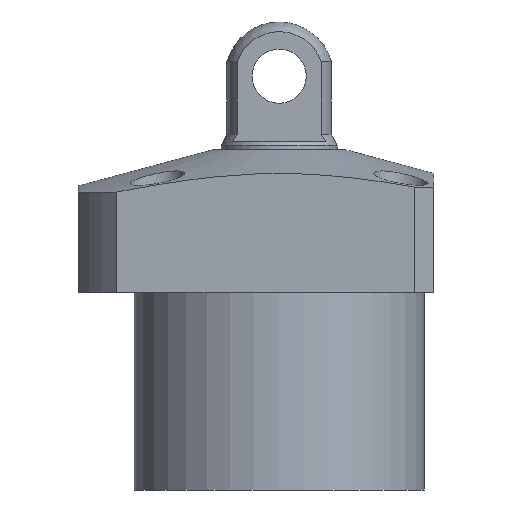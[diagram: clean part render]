
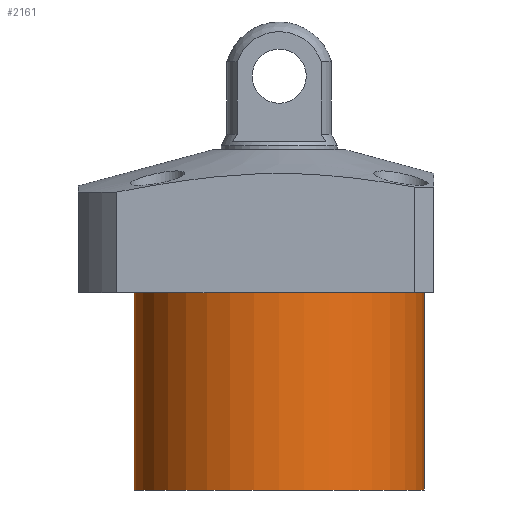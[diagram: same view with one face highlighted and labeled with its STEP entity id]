
A CAD part, front view. The second image highlights one B-rep face of the part: STEP entity #2161.
In plain terms, the highlighted cylindrical face has radius 37.5 mm (diameter 75 mm), a partial arc.
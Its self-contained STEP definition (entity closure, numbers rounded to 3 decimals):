
#35 = VERTEX_POINT ( 'NONE', #608 ) ;
#74 = EDGE_CURVE ( 'NONE', #35, #1172, #1656, .T. ) ;
#145 = VECTOR ( 'NONE', #1923, 1000. ) ;
#178 = CARTESIAN_POINT ( 'NONE',  ( 0., 0., -69.5 ) ) ;
#188 = AXIS2_PLACEMENT_3D ( 'NONE', #178, #783, #1093 ) ;
#198 = ORIENTED_EDGE ( 'NONE', *, *, #1735, .F. ) ;
#290 = LINE ( 'NONE', #1729, #145 ) ;
#460 = ORIENTED_EDGE ( 'NONE', *, *, #1861, .T. ) ;
#526 = DIRECTION ( 'NONE',  ( 1., 0., 0. ) ) ;
#599 = AXIS2_PLACEMENT_3D ( 'NONE', #2023, #1838, #526 ) ;
#608 = CARTESIAN_POINT ( 'NONE',  ( 37.5, 0., -69.5 ) ) ;
#630 = CARTESIAN_POINT ( 'NONE',  ( 37.5, 0., -69.5 ) ) ;
#783 = DIRECTION ( 'NONE',  ( 0., 0., 1. ) ) ;
#872 = ORIENTED_EDGE ( 'NONE', *, *, #2090, .T. ) ;
#928 = VERTEX_POINT ( 'NONE', #2146 ) ;
#1026 = DIRECTION ( 'NONE',  ( -1., 0., 0. ) ) ;
#1093 = DIRECTION ( 'NONE',  ( 1., 0., 0. ) ) ;
#1172 = VERTEX_POINT ( 'NONE', #2027 ) ;
#1376 = FACE_OUTER_BOUND ( 'NONE', #1771, .T. ) ;
#1416 = DIRECTION ( 'NONE',  ( 0., 0., -1. ) ) ;
#1518 = LINE ( 'NONE', #630, #1719 ) ;
#1553 = AXIS2_PLACEMENT_3D ( 'NONE', #1587, #1416, #1026 ) ;
#1587 = CARTESIAN_POINT ( 'NONE',  ( 0., 0., -69.5 ) ) ;
#1656 = CIRCLE ( 'NONE', #1553, 37.5 ) ;
#1719 = VECTOR ( 'NONE', #1910, 1000. ) ;
#1729 = CARTESIAN_POINT ( 'NONE',  ( -37.5, 0., -69.5 ) ) ;
#1735 = EDGE_CURVE ( 'NONE', #1172, #2080, #290, .T. ) ;
#1771 = EDGE_LOOP ( 'NONE', ( #198, #2344, #460, #872 ) ) ;
#1838 = DIRECTION ( 'NONE',  ( 0., 0., -1. ) ) ;
#1861 = EDGE_CURVE ( 'NONE', #35, #928, #1518, .T. ) ;
#1910 = DIRECTION ( 'NONE',  ( 0., 0., 1. ) ) ;
#1923 = DIRECTION ( 'NONE',  ( 0., 0., 1. ) ) ;
#1997 = CARTESIAN_POINT ( 'NONE',  ( -37.5, 0., -18.5 ) ) ;
#2016 = CIRCLE ( 'NONE', #599, 37.5 ) ;
#2023 = CARTESIAN_POINT ( 'NONE',  ( 0., 0., -18.5 ) ) ;
#2027 = CARTESIAN_POINT ( 'NONE',  ( -37.5, 0., -69.5 ) ) ;
#2080 = VERTEX_POINT ( 'NONE', #1997 ) ;
#2090 = EDGE_CURVE ( 'NONE', #928, #2080, #2016, .T. ) ;
#2146 = CARTESIAN_POINT ( 'NONE',  ( 37.5, 0., -18.5 ) ) ;
#2161 = ADVANCED_FACE ( 'NONE', ( #1376 ), #2376, .T. ) ;
#2344 = ORIENTED_EDGE ( 'NONE', *, *, #74, .F. ) ;
#2376 = CYLINDRICAL_SURFACE ( 'NONE', #188, 37.5 ) ;
